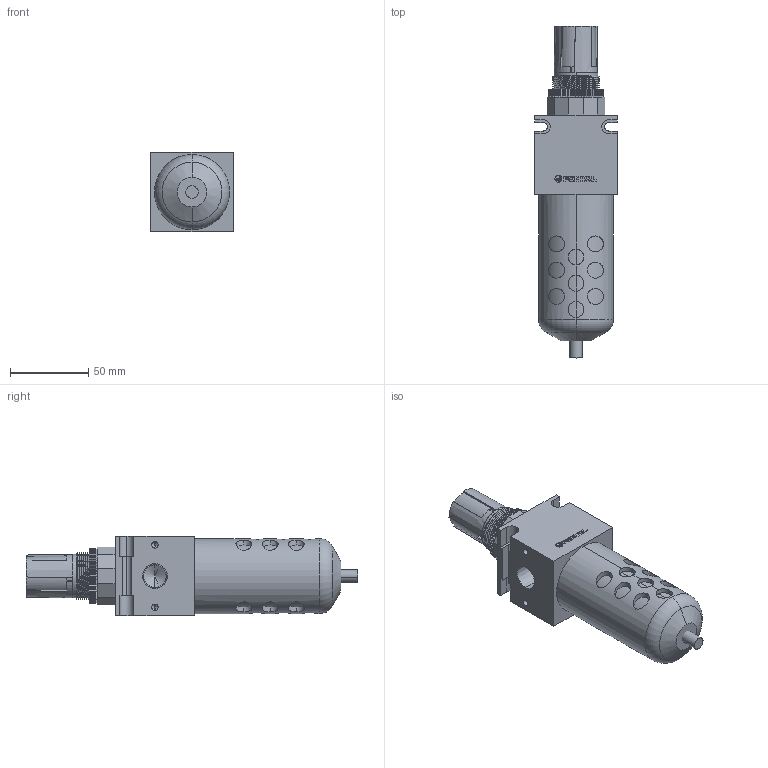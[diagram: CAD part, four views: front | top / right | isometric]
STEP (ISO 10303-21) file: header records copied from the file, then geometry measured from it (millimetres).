
FILE_DESCRIPTION (( 'STEP AP203' ), '1' );
FILE_NAME ('B55#-03#Y##.STEP', '2016-02-03T07:59:29', ( '' ), ( '' ), 'SwSTEP 2.0', 'SolidWorks 2014', '' );
FILE_SCHEMA (( 'CONFIG_CONTROL_DESIGN' ));
Length unit declared in the file: millimetre
Products named in the file (11): F55-2; R364-2; F45-MARK; F55-03; R364-3; R364-5; R364-4; R55-03; B55#-03#Y##
Assembly tree (10 placements, depth 3):
  B55#-03#Y##
    (unnamed)
      R364-2
      R364-3
      R364-4
      R364-5
    F55-03
      F55-2
      F45-MARK
      (unnamed)
      R55-03
Bounding box: 53 x 212.5 x 51.12 mm (x, y, z)
Volume: 322831.6 mm3; surface area: 52838.8 mm2
Topology: 14 solids, 14 shells, 515 faces, 1375 edges, 898 vertices
Faces by surface type: plane 276, cylinder 198, cone 25, bspline 14, torus 2
Entity records: 21203 total; most frequent: CARTESIAN_POINT 7385, ORIENTED_EDGE 2726, DIRECTION 2512, EDGE_CURVE 1363, LINE 908, VECTOR 908, VERTEX_POINT 898, AXIS2_PLACEMENT_3D 802
